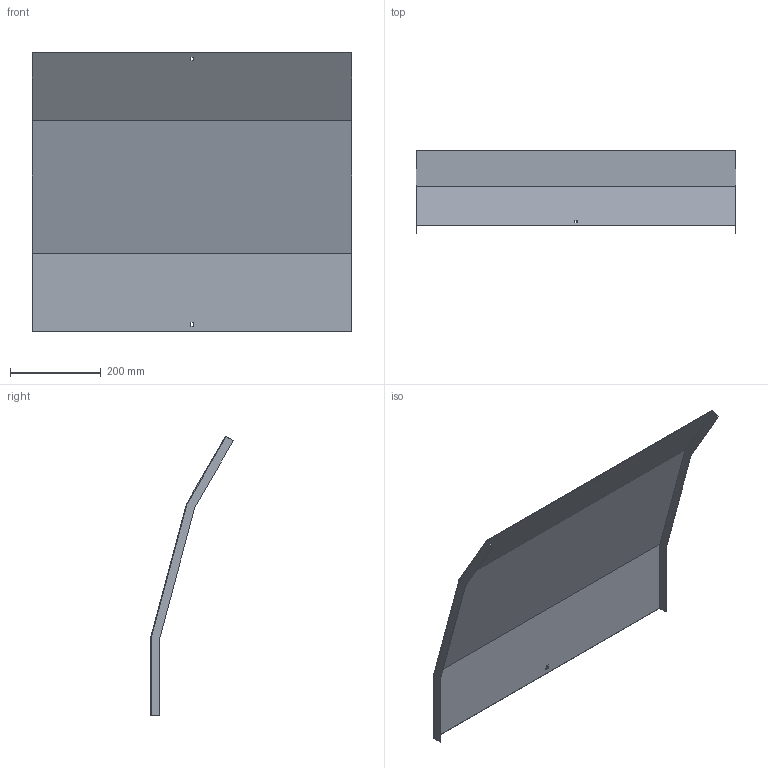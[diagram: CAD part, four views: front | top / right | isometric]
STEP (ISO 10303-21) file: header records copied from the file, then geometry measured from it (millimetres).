
FILE_DESCRIPTION (( 'STEP AP214' ), '1' );
FILE_NAME ('35N5F700.step', '2025-02-21T14:24:26', ( '' ), ( '' ), 'SwSTEP 2.0', 'SolidWorks 2023', '' );
FILE_SCHEMA (( 'AUTOMOTIVE_DESIGN' ));
Length unit declared in the file: millimetre
Products named in the file (1): 35N5F700
Bounding box: 703 x 182.13 x 615.07 mm (x, y, z)
Volume: 718964.6 mm3; surface area: 962847.6 mm2
Topology: 1 solids, 1 shells, 26 faces, 72 edges, 48 vertices
Faces by surface type: plane 26
Entity records: 847 total; most frequent: CARTESIAN_POINT 147, ORIENTED_EDGE 144, DIRECTION 126, VECTOR 72, EDGE_CURVE 72, LINE 72, VERTEX_POINT 48, EDGE_LOOP 30
